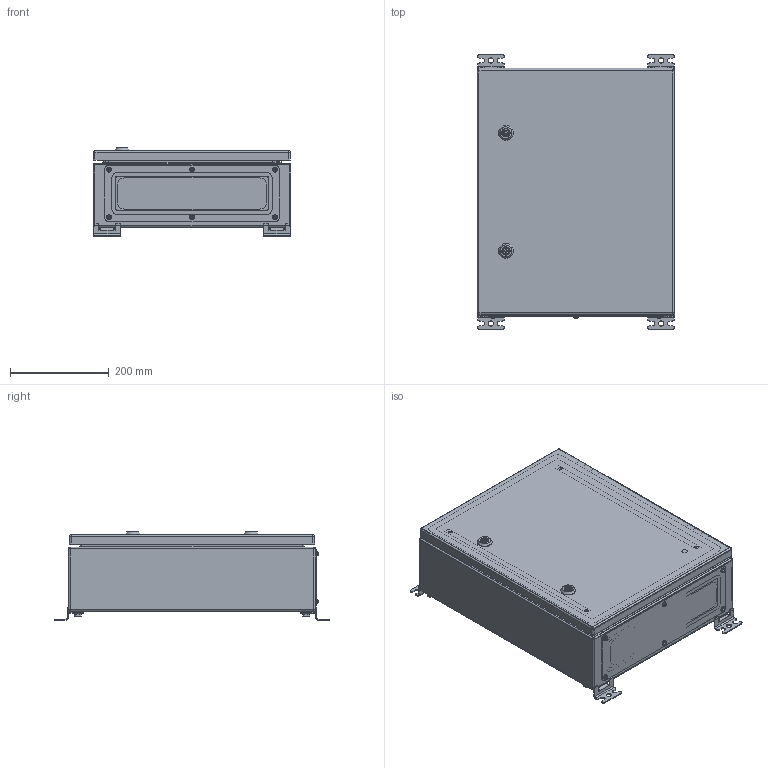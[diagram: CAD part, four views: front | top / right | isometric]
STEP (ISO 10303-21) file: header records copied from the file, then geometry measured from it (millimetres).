
FILE_DESCRIPTION(('STEP AP242'), '1');
FILE_NAME('400 ﾙﾌﾏ-1 (IP-56)', '', ('UNSPECIFIED'), ('UNSPECIFIED'), 'C3D Converter', 'C3D Toolkit', '');
FILE_SCHEMA(('AP242_MANAGED_MODEL_BASED_3D_ENGINEERING_MIM_LF { 1 0 10303 442 1 1 4 }'));
Length unit declared in the file: millimetre
Products named in the file (42): ЩМП-1-Л СБ; 410-Л; 420; 421; 411; 430-Л; 431-Л; 490; 491; 401.01; 440; 441; 402; 403
Assembly tree (109 placements, depth 4):
  ЩМП-1-Л СБ
    410-Л
      420
        421
        (unnamed)  x4
        (unnamed)
      411
      430-Л
        431-Л
        (unnamed)  x6
    490  x2
      491
      (unnamed)
      (unnamed)
      (unnamed)
      (unnamed)
      (unnamed)
    490  x2
      491
      (unnamed)
      (unnamed)
      (unnamed)
      (unnamed)
      (unnamed)
    401.01
    (unnamed)  x4
    (unnamed)  x4
    (unnamed)  x4
    (unnamed)  x4
    (unnamed)  x2
      (unnamed)
      (unnamed)
      (unnamed)
    (unnamed)  x10
    440
      441
      (unnamed)
      (unnamed)  x4
      (unnamed)  x2
    402  x2
    (unnamed)  x4
    (unnamed)  x4
    (unnamed)  x2
      (unnamed)
      (unnamed)
      (unnamed)
      (unnamed)
      (unnamed)
    (unnamed)  x2
    403
    (unnamed)  x6
    (unnamed)  x6
Bounding box: 400 x 556 x 178.1 mm (x, y, z)
Volume: 1753670.3 mm3; surface area: 2064918.6 mm2
Topology: 121 solids, 121 shells, 2439 faces, 5828 edges, 3702 vertices
Faces by surface type: plane 1367, cylinder 706, cone 216, extrusion 54, sphere 34, bspline 32, torus 30
Full cylindrical faces by diameter (mm): 0.5 x4, 2.6 x8, 3.5 x60, 4.134 x6, 4.2 x4, 4.917 x4, 5 x12, 5.5 x10, 5.8 x2, 6 x22, 6.38 x6, 6.4 x10, 6.647 x8, 7 x6, 7.3 x4, 7.5 x6, 7.74 x6, 8 x10, 8.376 x4, 8.4 x8, 8.5 x22, 8.7 x6, 9 x8, 10 x14, 10.4 x2, 10.5 x6, 11 x4, 11.4 x1, 11.5 x5, 12 x2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
Entity records: 66749 total; most frequent: CARTESIAN_POINT 35371, DIRECTION 5108, ORIENTED_EDGE 4908, EDGE_CURVE 2454, AXIS2_PLACEMENT_3D 1882, VERTEX_POINT 1650, EDGE_LOOP 1404, VECTOR 1344
